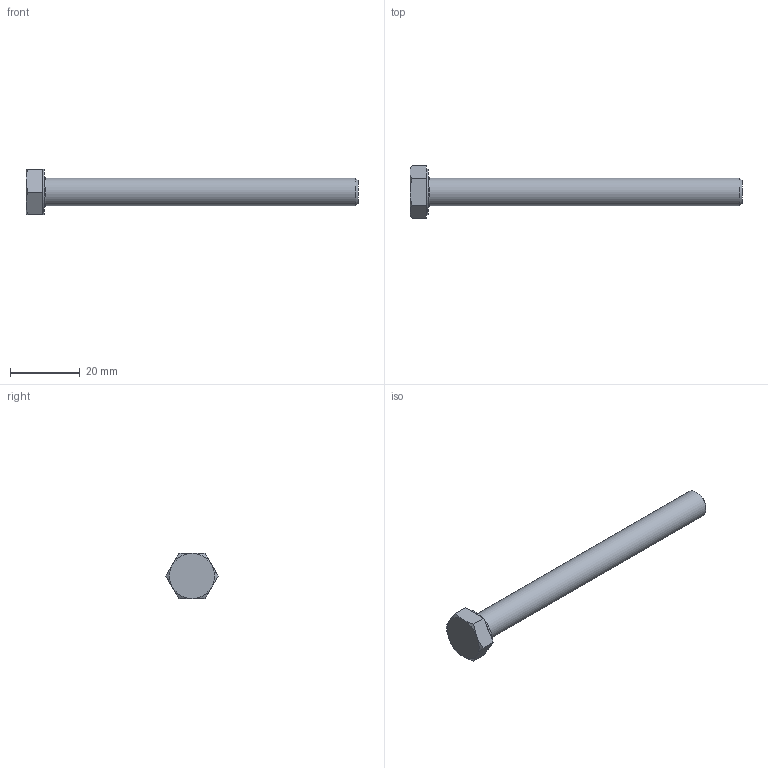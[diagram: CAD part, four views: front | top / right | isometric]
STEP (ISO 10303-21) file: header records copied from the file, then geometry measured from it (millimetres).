
FILE_DESCRIPTION (( 'STEP AP203' ), '1' );
FILE_NAME ('Vis tête hexagonale DIN EN 24014 - M8 x 80.STEP', '2026-06-24T07:29:49', ( '' ), ( '' ), 'SwSTEP 2.0', 'SolidWorks 2024', '' );
FILE_SCHEMA (( 'CONFIG_CONTROL_DESIGN' ));
Length unit declared in the file: millimetre
Products named in the file (1): Vis tête hexagonale DIN EN 24014 - M8 x 80_DIN EN 24014 - M8 x 90 x 90-C
Bounding box: 95.3 x 15.01 x 13 mm (x, y, z)
Volume: 5284.3 mm3; surface area: 2768.9 mm2
Topology: 1 solids, 1 shells, 25 faces, 52 edges, 30 vertices
Faces by surface type: plane 15, cone 7, cylinder 2, torus 1
Full cylindrical faces by diameter (mm): 8 x1, 13 x1
Entity records: 741 total; most frequent: CARTESIAN_POINT 170, DIRECTION 104, ORIENTED_EDGE 94, EDGE_CURVE 47, AXIS2_PLACEMENT_3D 43, EDGE_LOOP 30, VERTEX_POINT 29, FACE_OUTER_BOUND 28
